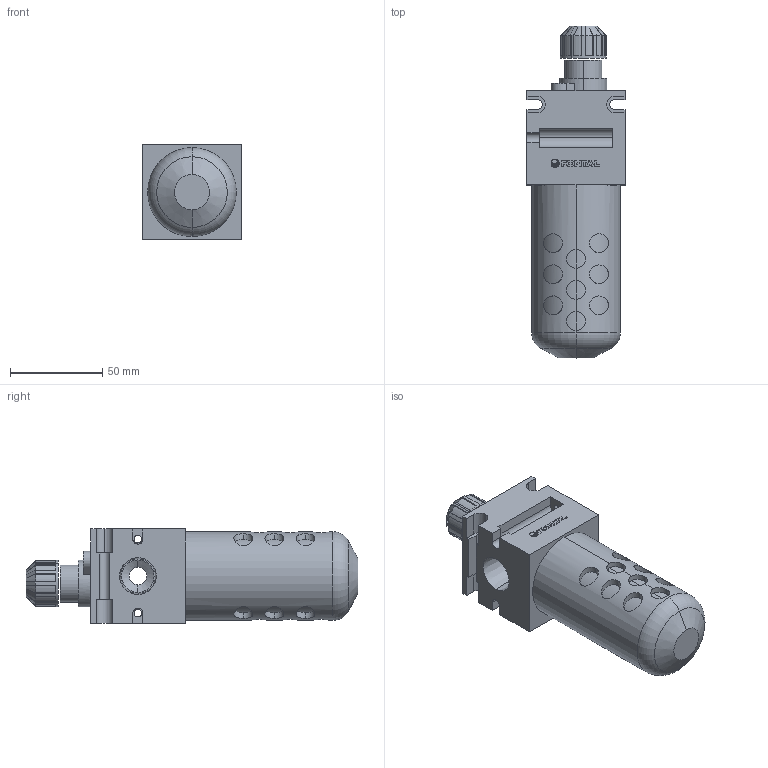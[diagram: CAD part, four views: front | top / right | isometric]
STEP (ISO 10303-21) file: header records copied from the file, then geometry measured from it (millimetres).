
FILE_DESCRIPTION (( 'STEP AP203' ), '1' );
FILE_NAME ('L55-04#.STEP', '2016-02-03T07:00:16', ( 'Toshiba' ), ( 'Toshiba' ), 'SwSTEP 2.0', 'SolidWorks 2014', '' );
FILE_SCHEMA (( 'CONFIG_CONTROL_DESIGN' ));
Length unit declared in the file: millimetre
Products named in the file (8): L508-5; L45-1; L55-04#; F45-MARK; F55-04; F55=04; F55-2; L45-2
Assembly tree (7 placements, depth 3):
  L55-04#
    F55=04
      F55-04
      F55-2
      F45-MARK
    L45-2
    L508-5
    L45-1
Bounding box: 53 x 179.5 x 51.12 mm (x, y, z)
Volume: 279022.7 mm3; surface area: 46084.3 mm2
Topology: 12 solids, 12 shells, 350 faces, 917 edges, 608 vertices
Faces by surface type: plane 191, cylinder 127, cone 22, bspline 8, torus 2
Entity records: 14345 total; most frequent: CARTESIAN_POINT 4978, ORIENTED_EDGE 1834, DIRECTION 1659, EDGE_CURVE 917, VERTEX_POINT 608, VECTOR 593, LINE 593, AXIS2_PLACEMENT_3D 533
